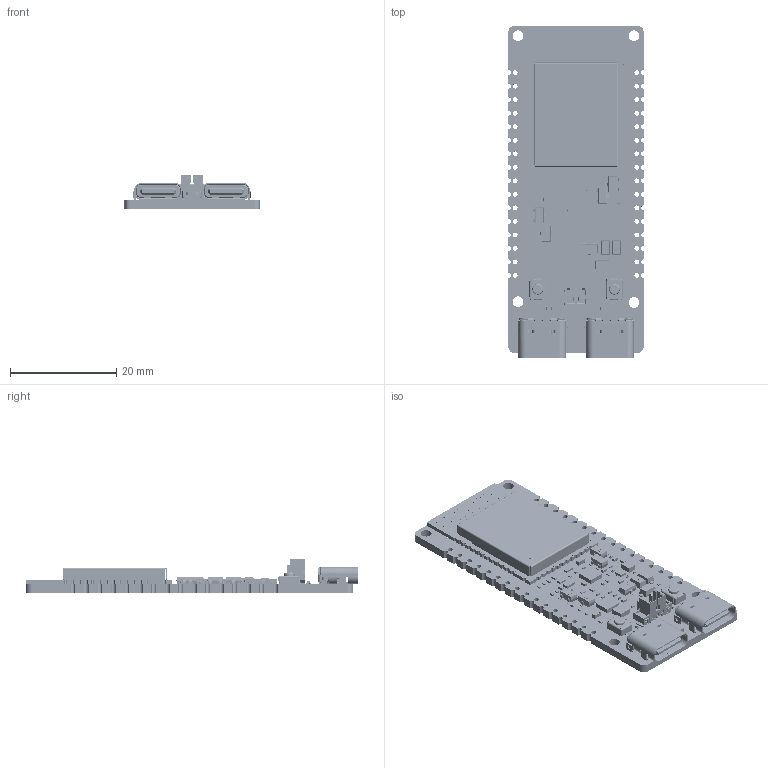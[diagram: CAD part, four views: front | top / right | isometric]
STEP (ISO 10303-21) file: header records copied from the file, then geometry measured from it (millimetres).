
FILE_DESCRIPTION((''),'2;1');
FILE_NAME('ESP32-C5-WIFI6-KIT-N16R8_ASM','2026-03-04T14:17:05',('ag'),(''),'CREO PARAMETRIC BY PTC INC, 2021063','CREO PARAMETRIC BY PTC INC, 2021063','');
FILE_SCHEMA(('CONFIG_CONTROL_DESIGN','SHAPE_APPEARANCE_LAYERS_GROUPS'));
Products named in the file (172): BOARD; USER_LIBRARY-RES_0603-0201_1; USER_LIBRARY-RES_0603-0201_2; USER_LIBRARY-RES_0603-0201_3; USER_LIBRARY-RES_0603-0201_4; USER_LIBRARY-RES_0603-0201_ASM; R38_ASM; R35_ASM; R21_ASM; R20_ASM; R18_ASM; 2_A; 300; _10001; C_0201-1099_AF1_ASM_ASM; C_0201-4408_AF1_ASM_ASM; 3D_MODEL_ASM; C20_ASM; C19_ASM; C13_ASM; USER_LIBRARY-LED_0603_R_-223584; USER_LIBRARY-LED_0603_R_PAD004; USER_LIBRARY-LED_0603_R_FILLET; USER_LIBRARY-LED_0603_R_-225939; USER_LIBRARY-LED_0603_R_PAD; USER_LIBRARY-LED_0603_R_ASM; LED3_ASM; EXTRUDED-226845; 668014320_ASM; L2_ASM; _1_10001; 3_1_A; 2_100; C_0402-672_AF0_ASM_ASM; C_0402-4045_AF0_ASM_ASM; C_0402_ASM; C25_ASM; R9_ASM; 2_1_200; _1_1_20001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
Assembly tree (246 placements, depth 6):
  ESP32-C5-WIFI6-KIT-N16R8_ASM
    BOARD
    R38_ASM
      USER_LIBRARY-RES_0603-0201_ASM
        USER_LIBRARY-RES_0603-0201_1
        USER_LIBRARY-RES_0603-0201_2
        USER_LIBRARY-RES_0603-0201_3
        USER_LIBRARY-RES_0603-0201_4
    R35_ASM
      USER_LIBRARY-RES_0603-0201_ASM
        USER_LIBRARY-RES_0603-0201_1
        USER_LIBRARY-RES_0603-0201_2
        USER_LIBRARY-RES_0603-0201_3
        USER_LIBRARY-RES_0603-0201_4
    R21_ASM
      USER_LIBRARY-RES_0603-0201_ASM
        USER_LIBRARY-RES_0603-0201_1
        USER_LIBRARY-RES_0603-0201_2
        USER_LIBRARY-RES_0603-0201_3
        USER_LIBRARY-RES_0603-0201_4
    R20_ASM
      USER_LIBRARY-RES_0603-0201_ASM
        USER_LIBRARY-RES_0603-0201_1
        USER_LIBRARY-RES_0603-0201_2
        USER_LIBRARY-RES_0603-0201_3
        USER_LIBRARY-RES_0603-0201_4
    R18_ASM
      USER_LIBRARY-RES_0603-0201_ASM
        USER_LIBRARY-RES_0603-0201_1
        USER_LIBRARY-RES_0603-0201_2
        USER_LIBRARY-RES_0603-0201_3
        USER_LIBRARY-RES_0603-0201_4
    C20_ASM
      3D_MODEL_ASM
        C_0201-4408_AF1_ASM_ASM
          C_0201-1099_AF1_ASM_ASM
            2_A
            300
            _10001
    C19_ASM
      3D_MODEL_ASM
        C_0201-4408_AF1_ASM_ASM
          C_0201-1099_AF1_ASM_ASM
            2_A
            300
            _10001
    C13_ASM
      3D_MODEL_ASM
        C_0201-4408_AF1_ASM_ASM
          C_0201-1099_AF1_ASM_ASM
            2_A
            300
            _10001
    LED3_ASM
      USER_LIBRARY-LED_0603_R_ASM
        USER_LIBRARY-LED_0603_R_-223584
        USER_LIBRARY-LED_0603_R_PAD004
        USER_LIBRARY-LED_0603_R_FILLET
        USER_LIBRARY-LED_0603_R_-225939
        USER_LIBRARY-LED_0603_R_PAD
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Bounding box: 25.42 x 62.39 x 6.3 mm (x, y, z)
Volume: 3147.1 mm3; surface area: 7794 mm2
Topology: 308 solids, 338 shells, 22215 faces, 59082 edges, 38712 vertices
Faces by surface type: plane 16118, extrusion 3268, cylinder 2461, sphere 276, cone 72, bspline 12, torus 8
Entity records: 275748 total; most frequent: CARTESIAN_POINT 60547, ORIENTED_EDGE 37044, DIRECTION 33328, EDGE_CURVE 18525, VECTOR 15500, LINE 14907, VERTEX_POINT 12197, PRESENTATION_STYLE_ASSIGNMENT 10538
